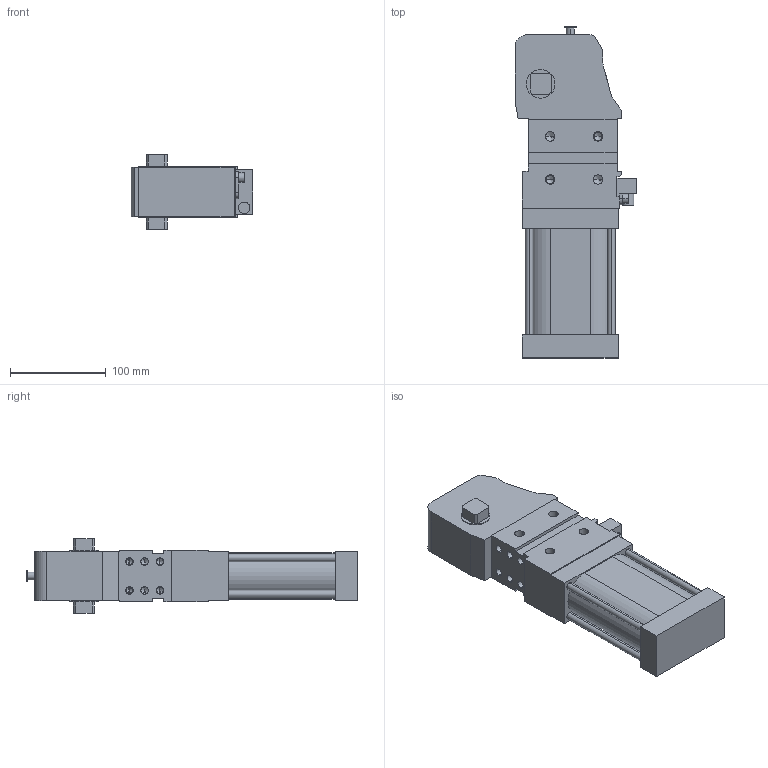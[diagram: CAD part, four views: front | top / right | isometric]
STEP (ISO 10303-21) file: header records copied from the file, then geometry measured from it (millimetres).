
FILE_DESCRIPTION (( 'STEP AP214' ), '1' );
FILE_NAME ('cpl63xxxi1g_135.STEP', '2023-01-27T10:29:10', ( '' ), ( '' ), 'SwSTEP 2.0', 'SolidWorks 2022', '' );
FILE_SCHEMA (( 'AUTOMOTIVE_DESIGN' ));
Length unit declared in the file: millimetre
Products named in the file (4): blocchetto_VEP_0; cpl63xxxi1g_135; meccanica_cpl_63; manovella_cpl_63
Assembly tree (3 placements, depth 2):
  cpl63xxxi1g_135
    meccanica_cpl_63
    blocchetto_VEP_0
    manovella_cpl_63
Bounding box: 127 x 347 x 78 mm (x, y, z)
Volume: 1623424.2 mm3; surface area: 147346.2 mm2
Topology: 3 solids, 3 shells, 292 faces, 731 edges, 447 vertices
Faces by surface type: plane 126, cylinder 116, cone 50
Entity records: 9825 total; most frequent: DIRECTION 1519, CARTESIAN_POINT 1430, ORIENTED_EDGE 1370, EDGE_CURVE 685, AXIS2_PLACEMENT_3D 536, VERTEX_POINT 447, VECTOR 447, LINE 447
